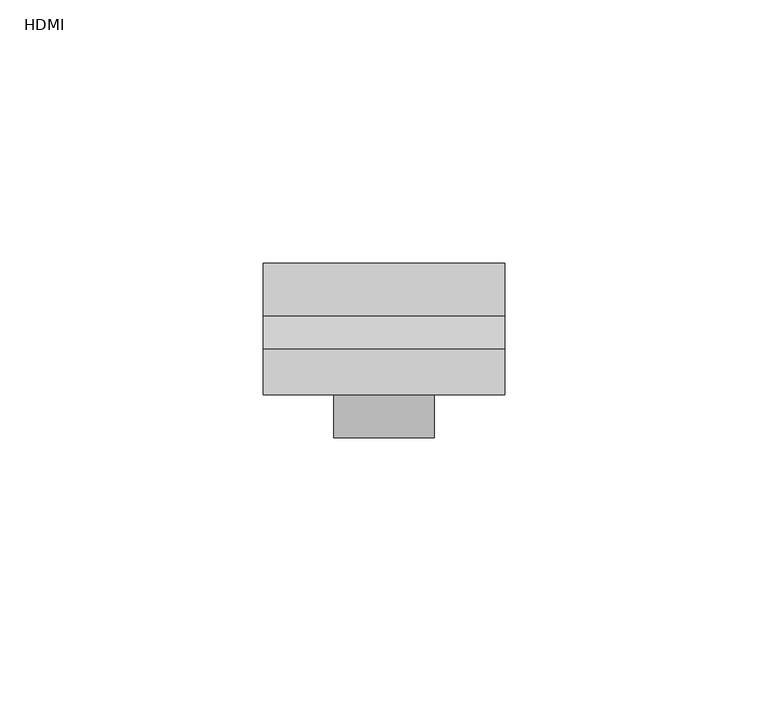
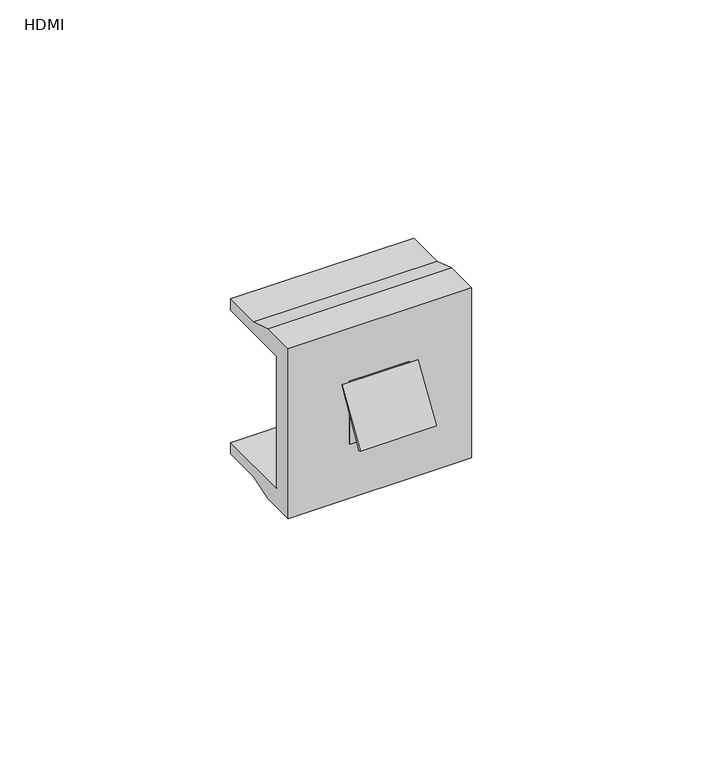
"""IFC4 building model written with IfcOpenShell, lengths in millimetres: proxy geometry, КНС_МультимедийныеРозеткиHDMIиUSB_DKC : HDMI."""

import ifcopenshell
import ifcopenshell.guid

model = None  # the IFC model being written
_history = None  # IfcOwnerHistory: only IFC2X3 demands one
_inside = {}  # id of a spatial element -> (the spatial element, [elements in it])
_under = {}  # id of a project, library or spatial element -> (it, [spatial elements below it])
_declared = {}  # id of a project -> (the project, [libraries it declares])
_typed = {}  # id of a type object -> (the type object, [elements of that type])
_made_of = {}  # id of a material, layer set ... -> (it, [elements and type objects made of it])


def new_model(schema):
    """Start an empty IFC model of exactly this schema.

    Asked for "IFC4X3", IfcOpenShell would pick the latest addendum, in which some entities
    have other attributes; the version numbers below select the first issue.
    IFC2X3 requires an IfcOwnerHistory on every rooted entity: one is made here for all.
    """
    global model, _history
    if schema == "IFC4X3":
        model = ifcopenshell.file(schema_version=(4, 3, 0, 0))
    else:
        model = ifcopenshell.file(schema=schema)
    _inside.clear()
    _under.clear()
    _declared.clear()
    _typed.clear()
    _made_of.clear()
    _history = None
    if model.schema == "IFC2X3":
        org = make("IfcOrganization", Name="unknown")
        user = make(
            "IfcPersonAndOrganization",
            ThePerson=make("IfcPerson", FamilyName="unknown"),
            TheOrganization=org,
        )
        app = make(
            "IfcApplication",
            ApplicationDeveloper=org,
            Version="unknown",
            ApplicationFullName="unknown",
            ApplicationIdentifier="unknown",
        )
        _history = make(
            "IfcOwnerHistory",
            OwningUser=user,
            OwningApplication=app,
            ChangeAction="ADDED",
            CreationDate=0,
        )
    return model


def make(cls, **values):
    """One entity of the class cls with the attributes given. An attribute that is None is left unset."""
    return model.create_entity(
        cls, **{name: value for name, value in values.items() if value is not None}
    )


def rooted(cls, **values):
    """An entity with a GlobalId (a new one), such as an element, a storey or a relation."""
    return make(cls, GlobalId=ifcopenshell.guid.new(), OwnerHistory=_history, **values)


def si_unit(unit_type, name, prefix=None):
    """IfcSIUnit, for example si_unit("LENGTHUNIT", "METRE", prefix="MILLI")."""
    return make("IfcSIUnit", UnitType=unit_type, Prefix=prefix, Name=name)


def assignment(units):
    """IfcUnitAssignment: the units of a project."""
    return None if units is None else make("IfcUnitAssignment", Units=units)


def point(xyz):
    """IfcCartesianPoint."""
    return None if xyz is None else make("IfcCartesianPoint", Coordinates=xyz)


def direction(xyz):
    """IfcDirection."""
    return None if xyz is None else make("IfcDirection", DirectionRatios=xyz)


def frame(location, z_axis=None, x_axis=None):
    """IfcAxis2Placement3D, a coordinate frame: its origin and axes. An axis left out is left unset."""
    return make(
        "IfcAxis2Placement3D",
        Location=point(location),
        Axis=direction(z_axis),
        RefDirection=direction(x_axis),
    )


def origin():
    """The frame at (0, 0, 0) with its axes left unset."""
    return frame((0.0, 0.0, 0.0))


def place(relative_to, where):
    """IfcLocalPlacement: puts the frame where relative to a parent placement (None: the world)."""
    return make(
        "IfcLocalPlacement", PlacementRelTo=relative_to, RelativePlacement=where
    )


def context(
    kind, dimensions, precision=None, world=None, true_north=None, identifier=None
):
    """IfcGeometricRepresentationContext, for example the 3D "Model" context."""
    return make(
        "IfcGeometricRepresentationContext",
        ContextIdentifier=identifier,
        ContextType=kind,
        CoordinateSpaceDimension=dimensions,
        Precision=precision,
        WorldCoordinateSystem=world,
        TrueNorth=true_north,
    )


def project(units=None, contexts=None):
    """IfcProject with its units and contexts."""
    return rooted(
        "IfcProject",
        Name="project",
        RepresentationContexts=contexts,
        UnitsInContext=assignment(units),
    )


def spatial(cls, under=None, at=None, **own):
    """A site, building, storey or space (cls), placed at a placement, below another one or the project."""
    s = rooted(cls, ObjectPlacement=at, **own)
    if under is not None:
        _under.setdefault(under.id(), (under, []))[1].append(s)
    return s


def polyline(points):
    """IfcPolyline through the points."""
    return make("IfcPolyline", Points=[point(p) for p in points])


def outline(outer, holes=None, kind="AREA"):
    """IfcArbitraryClosedProfileDef: a profile drawn as a closed curve; with holes, ...WithVoids."""
    if holes is None:
        return make("IfcArbitraryClosedProfileDef", ProfileType=kind, OuterCurve=outer)
    return make(
        "IfcArbitraryProfileDefWithVoids",
        ProfileType=kind,
        OuterCurve=outer,
        InnerCurves=holes,
    )


def extrude(swept, where, along, depth):
    """IfcExtrudedAreaSolid: the profile swept, set in the frame where, extruded along a direction by depth."""
    return make(
        "IfcExtrudedAreaSolid",
        SweptArea=swept,
        Position=where,
        ExtrudedDirection=direction(along),
        Depth=depth,
    )


def faces_of(points, faces, orient=None, outer=None):
    """IfcFace entities. A face is a list of loops; a loop is a list of indices into points, from 0.

    orient and outer hold one flag for each loop. By default every Orientation is true, the
    first loop of a face is its IfcFaceOuterBound and the others are IfcFaceBound.
    """
    made = []
    for i, loops in enumerate(faces):
        bounds = []
        for j, loop in enumerate(loops):
            is_outer = j == 0 if outer is None else outer[i][j]
            bounds.append(
                make(
                    "IfcFaceOuterBound" if is_outer else "IfcFaceBound",
                    Bound=make("IfcPolyLoop", Polygon=[points[k] for k in loop]),
                    Orientation=True if orient is None else orient[i][j],
                )
            )
        made.append(make("IfcFace", Bounds=bounds))
    return made


def faceted_brep(points, faces, orient=None, outer=None, voids=None):
    """IfcFacetedBrep: a solid bounded by flat faces; with voids (closed shells), ...WithVoids."""
    shared = [point(p) for p in points]
    hull = make("IfcClosedShell", CfsFaces=faces_of(shared, faces, orient, outer))
    if voids is None:
        return make("IfcFacetedBrep", Outer=hull)
    return make(
        "IfcFacetedBrepWithVoids",
        Outer=hull,
        Voids=[
            make(cls, CfsFaces=faces_of(shared, fs, o, b)) for cls, fs, o, b in voids
        ],
    )


def shape(context_of_items, identifier, shape_type, items):
    """IfcShapeRepresentation: the items that make up one representation, for example the "Body"."""
    return make(
        "IfcShapeRepresentation",
        ContextOfItems=context_of_items,
        RepresentationIdentifier=identifier,
        RepresentationType=shape_type,
        Items=items,
    )


def source(mapping_origin, context_of_items, identifier, shape_type, items):
    """IfcRepresentationMap: a shape defined once, which mapped items show again and again."""
    return make(
        "IfcRepresentationMap",
        MappingOrigin=mapping_origin,
        MappedRepresentation=shape(context_of_items, identifier, shape_type, items),
    )


def transform(
    local_origin,
    x_axis=None,
    y_axis=None,
    z_axis=None,
    scale=None,
    scale2=None,
    scale3=None,
    uniform=True,
):
    """IfcCartesianTransformationOperator3D, or its non-uniform kind. x_axis, y_axis, z_axis: its Axis1, 2, 3."""
    if uniform:
        return make(
            "IfcCartesianTransformationOperator3D",
            Axis1=direction(x_axis),
            Axis2=direction(y_axis),
            LocalOrigin=point(local_origin),
            Scale=scale,
            Axis3=direction(z_axis),
        )
    return make(
        "IfcCartesianTransformationOperator3DnonUniform",
        Axis1=direction(x_axis),
        Axis2=direction(y_axis),
        LocalOrigin=point(local_origin),
        Scale=scale,
        Axis3=direction(z_axis),
        Scale2=scale2,
        Scale3=scale3,
    )


def mapped(mapping_source, mapping_target):
    """IfcMappedItem: shows the shape of a source again, moved by a transform."""
    return make(
        "IfcMappedItem", MappingSource=mapping_source, MappingTarget=mapping_target
    )


def made_of(thing, what):
    """Note that an element or type object is made of a material, layer set ...; save() writes the relation."""
    if what is not None:
        _made_of.setdefault(what.id(), (what, []))[1].append(thing)
    return thing


def element(
    cls,
    number,
    at=None,
    inside=None,
    cuts=None,
    type_object=None,
    material=None,
    context=None,
    identifier="Body",
    shape_type=None,
    held_by="IfcProductDefinitionShape",
    body=None,
    shapes=None,
    **own,
):
    """One element of the class cls, such as IfcWall. Its Tag is "e" and its number.

    at: its placement. inside: the storey or other place that contains it. cuts: it is an
    opening in that element (IfcRelVoidsElement). A single representation is given by context,
    identifier, shape_type and body (its items); several are given by shapes. held_by: the class
    of the entity that holds the representations. save() writes the other relations.
    """
    e = rooted(cls, Tag="e%d" % number, ObjectPlacement=at, **own)
    if body is not None:
        shapes = [shape(context, identifier, shape_type, body)]
    if shapes is not None:
        e.Representation = make(held_by, Representations=shapes)
    if inside is not None:
        _inside.setdefault(inside.id(), (inside, []))[1].append(e)
    if cuts is not None:
        rooted(
            "IfcRelVoidsElement", RelatingBuildingElement=cuts, RelatedOpeningElement=e
        )
    if type_object is not None:
        _typed.setdefault(type_object.id(), (type_object, []))[1].append(e)
    return made_of(e, material)


def aggregate(whole, parts):
    """IfcRelAggregates: a whole, such as a stair, and the parts it consists of."""
    return rooted("IfcRelAggregates", RelatingObject=whole, RelatedObjects=parts)


def save(model, path):
    """Write the relations noted so far, then the file.

    IfcRelAggregates (storeys below a building ...), IfcRelContainedInSpatialStructure (elements
    in a storey), IfcRelDefinesByType, IfcRelAssociatesMaterial and IfcRelDeclares: one each for
    every whole, place, type object, material and project.
    """
    for whole, parts in _under.values():
        aggregate(whole, parts)
    for where, things in _inside.values():
        rooted(
            "IfcRelContainedInSpatialStructure",
            RelatedElements=things,
            RelatingStructure=where,
        )
    for kind, things in _typed.values():
        rooted("IfcRelDefinesByType", RelatedObjects=things, RelatingType=kind)
    for what, things in _made_of.values():
        rooted("IfcRelAssociatesMaterial", RelatedObjects=things, RelatingMaterial=what)
    for by, libraries in _declared.values():
        rooted("IfcRelDeclares", RelatingContext=by, RelatedDefinitions=libraries)
    model.write(path)


def hdmi_5f817c11(model_context):
    return source(origin(), model_context, "Body", "SolidModel", [
        extrude(outline(polyline([(-32.5, -4.7403811), (-33.1818268, -4.3467281), (-25.0, 8.25), (-32.5, -4.7403811)])), frame((-9.523089, 0.0, 0.0), z_axis=(1.0, 0.0, 0.0), x_axis=(0.0, 1.0, 0.0)), (0.0, 0.0, 1.0), 19.046178),
        faceted_brep([(7.5, -25.0, 8.25), (-7.5, -25.0, 8.25), (-7.5, -25.0, -8.25), (7.5, -25.0, -8.25), (-1.5914527, -25.0, 6.436967), (0.5241099, -25.0, 6.436967), (1.7681536, -25.0, 5.1929232), (1.7681536, -25.0, -5.1929232), (0.5241099, -25.0, -6.436967), (-1.5914527, -25.0, -6.436967), (7.5, -16.2913439, 8.25), (7.5, -16.2913439, -8.25), (-7.5, -16.2913439, -8.25), (-7.5, -16.2913439, 8.25), (0.5241099, -20.0, 6.436967), (-1.5914527, -20.0, 6.436967), (-1.5914527, -20.0, -6.436967), (0.5241099, -20.0, -6.436967), (1.7681536, -20.0, -5.1929232), (1.7681536, -20.0, 5.1929232)], [[[0, 1, 2, 3], [4, 5, 6, 7, 8, 9]], [[10, 11, 12, 13]], [[1, 0, 10, 13]], [[2, 1, 13, 12]], [[3, 2, 12, 11]], [[0, 3, 11, 10]], [[14, 15, 16, 17, 18, 19]], [[15, 14, 5, 4]], [[16, 15, 4, 9]], [[17, 16, 9, 8]], [[18, 17, 8, 7]], [[19, 18, 7, 6]], [[14, 19, 6, 5]]]),
        faceted_brep([(-23.0, -20.0, -17.5), (23.0, -20.0, -17.5), (23.0, 0.0, -17.5), (-23.0, 0.0, -17.5), (23.0, -20.0, 17.5), (-23.0, -20.0, 17.5), (-23.0, 0.0, 17.5), (23.0, 0.0, 17.5), (7.5, -20.0, -8.25), (7.5, -20.0, 8.25), (-7.5, -20.0, 8.25), (-7.5, -20.0, -8.25), (-23.0, -10.0, 20.5), (23.0, -10.0, 20.5), (23.0, 0.0, 20.5), (-23.0, 0.0, 20.5), (-23.0, -16.2913439, 22.5), (23.0, -16.2913439, 22.5), (23.0, -10.0, -20.5), (-23.0, -10.0, -20.5), (-23.0, 0.0, -20.5), (23.0, 0.0, -20.5), (23.0, -16.2913439, -22.5), (-23.0, -16.2913439, -22.5), (23.0, -25.0, 22.5), (-23.0, -25.0, 22.5), (-23.0, -25.0, -22.5), (23.0, -25.0, -22.5), (7.5, -25.0, 8.25), (7.5, -25.0, -8.25), (-7.5, -25.0, -8.25), (-7.5, -25.0, 8.25)], [[[0, 1, 2, 3]], [[4, 5, 6, 7]], [[1, 0, 5, 4], [8, 9, 10, 11]], [[12, 13, 14, 15]], [[13, 12, 16, 17]], [[18, 19, 20, 21]], [[19, 18, 22, 23]], [[24, 25, 26, 27], [28, 29, 30, 31]], [[14, 7, 6, 15]], [[2, 21, 20, 3]], [[25, 24, 17, 16]], [[26, 25, 16, 12, 15, 6, 5, 0, 3, 20, 19, 23]], [[27, 26, 23, 22]], [[24, 27, 22, 18, 21, 2, 1, 4, 7, 14, 13, 17]], [[29, 28, 9, 8]], [[30, 29, 8, 11]], [[31, 30, 11, 10]], [[28, 31, 10, 9]]]),
    ])


if __name__ == "__main__":
    model = new_model("IFC4")
    model_context = context("Model", 3, world=origin())
    ifc_project = project(units=[si_unit("LENGTHUNIT", "METRE", prefix="MILLI")], contexts=[model_context])
    site = spatial("IfcSite", under=ifc_project)
    building = spatial("IfcBuilding", under=site)
    placement = place(None, origin())
    hdmi_shape = hdmi_5f817c11(model_context)
    element("IfcBuildingElementProxy", 1, Name="КНС_МультимедийныеРозеткиHDMIиUSB_DKC : HDMI", ObjectType="КНС_МультимедийныеРозеткиHDMIиUSB_DKC : HDMI", at=placement, inside=building, context=model_context, shape_type="MappedRepresentation", body=[
        mapped(hdmi_shape, transform((0.0, 0.0, 0.0), x_axis=(1.0, 0.0, 0.0), y_axis=(0.0, 1.0, 0.0), z_axis=(0.0, 0.0, 1.0))),
    ])
    save(model, "model.ifc")
